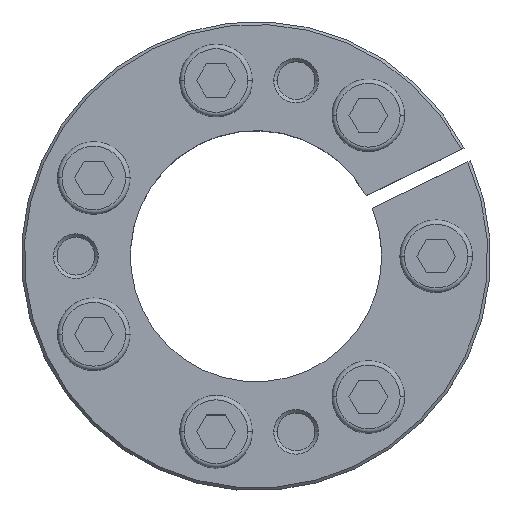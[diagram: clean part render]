
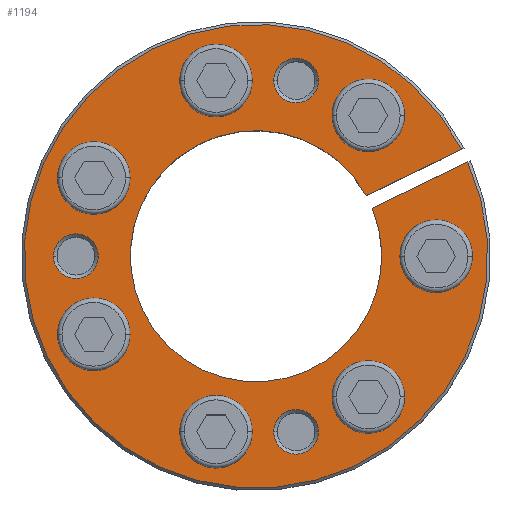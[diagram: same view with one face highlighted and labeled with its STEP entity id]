
A CAD part, top view. The second image highlights one B-rep face of the part: STEP entity #1194.
In plain terms, the highlighted planar face has unit normal (0, 0, 1).
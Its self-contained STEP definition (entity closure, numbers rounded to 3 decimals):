
#222=CARTESIAN_POINT('',(32.25,0.,8.));
#223=DIRECTION('',(0.,0.,1.));
#224=DIRECTION('',(1.,0.,0.));
#225=AXIS2_PLACEMENT_3D('',#222,#223,#224);
#230=CARTESIAN_POINT('',(32.25,0.,8.));
#231=DIRECTION('',(0.,0.,1.));
#232=DIRECTION('',(-1.,0.,0.));
#233=AXIS2_PLACEMENT_3D('',#230,#231,#232);
#238=CARTESIAN_POINT('',(20.108,25.214,8.));
#239=DIRECTION('',(0.,0.,1.));
#240=DIRECTION('',(1.,0.,0.));
#241=AXIS2_PLACEMENT_3D('',#238,#239,#240);
#246=CARTESIAN_POINT('',(20.108,25.214,8.));
#247=DIRECTION('',(0.,0.,1.));
#248=DIRECTION('',(-1.,0.,0.));
#249=AXIS2_PLACEMENT_3D('',#246,#247,#248);
#254=CARTESIAN_POINT('',(-7.176,31.441,8.));
#255=DIRECTION('',(0.,0.,1.));
#256=DIRECTION('',(1.,0.,0.));
#257=AXIS2_PLACEMENT_3D('',#254,#255,#256);
#262=CARTESIAN_POINT('',(-7.176,31.441,8.));
#263=DIRECTION('',(0.,0.,1.));
#264=DIRECTION('',(-1.,0.,0.));
#265=AXIS2_PLACEMENT_3D('',#262,#263,#264);
#270=CARTESIAN_POINT('',(-29.056,13.993,8.));
#271=DIRECTION('',(0.,0.,1.));
#272=DIRECTION('',(1.,0.,0.));
#273=AXIS2_PLACEMENT_3D('',#270,#271,#272);
#278=CARTESIAN_POINT('',(-29.056,13.993,8.));
#279=DIRECTION('',(0.,0.,1.));
#280=DIRECTION('',(-1.,0.,0.));
#281=AXIS2_PLACEMENT_3D('',#278,#279,#280);
#286=CARTESIAN_POINT('',(-29.056,-13.993,8.));
#287=DIRECTION('',(0.,0.,1.));
#288=DIRECTION('',(1.,0.,0.));
#289=AXIS2_PLACEMENT_3D('',#286,#287,#288);
#294=CARTESIAN_POINT('',(-29.056,-13.993,8.));
#295=DIRECTION('',(0.,0.,1.));
#296=DIRECTION('',(-1.,0.,0.));
#297=AXIS2_PLACEMENT_3D('',#294,#295,#296);
#302=CARTESIAN_POINT('',(-7.176,-31.441,8.));
#303=DIRECTION('',(0.,0.,1.));
#304=DIRECTION('',(1.,0.,0.));
#305=AXIS2_PLACEMENT_3D('',#302,#303,#304);
#310=CARTESIAN_POINT('',(-7.176,-31.441,8.));
#311=DIRECTION('',(0.,0.,1.));
#312=DIRECTION('',(-1.,0.,0.));
#313=AXIS2_PLACEMENT_3D('',#310,#311,#312);
#318=CARTESIAN_POINT('',(20.108,-25.214,8.));
#319=DIRECTION('',(0.,0.,1.));
#320=DIRECTION('',(1.,0.,0.));
#321=AXIS2_PLACEMENT_3D('',#318,#319,#320);
#326=CARTESIAN_POINT('',(20.108,-25.214,8.));
#327=DIRECTION('',(0.,0.,1.));
#328=DIRECTION('',(-1.,0.,0.));
#329=AXIS2_PLACEMENT_3D('',#326,#327,#328);
#334=CARTESIAN_POINT('',(7.176,31.441,8.));
#335=DIRECTION('',(0.,0.,-1.));
#336=DIRECTION('',(1.,0.,0.));
#337=AXIS2_PLACEMENT_3D('',#334,#335,#336);
#342=CARTESIAN_POINT('',(7.176,31.441,8.));
#343=DIRECTION('',(0.,0.,-1.));
#344=DIRECTION('',(-1.,0.,0.));
#345=AXIS2_PLACEMENT_3D('',#342,#343,#344);
#350=CARTESIAN_POINT('',(-32.25,0.,8.));
#351=DIRECTION('',(0.,0.,-1.));
#352=DIRECTION('',(1.,0.,0.));
#353=AXIS2_PLACEMENT_3D('',#350,#351,#352);
#358=CARTESIAN_POINT('',(-32.25,0.,8.));
#359=DIRECTION('',(0.,0.,-1.));
#360=DIRECTION('',(-1.,0.,0.));
#361=AXIS2_PLACEMENT_3D('',#358,#359,#360);
#366=CARTESIAN_POINT('',(7.176,-31.441,8.));
#367=DIRECTION('',(0.,0.,-1.));
#368=DIRECTION('',(1.,0.,0.));
#369=AXIS2_PLACEMENT_3D('',#366,#367,#368);
#374=CARTESIAN_POINT('',(7.176,-31.441,8.));
#375=DIRECTION('',(0.,0.,-1.));
#376=DIRECTION('',(-1.,0.,0.));
#377=AXIS2_PLACEMENT_3D('',#374,#375,#376);
#382=DIRECTION('',(0.901,0.434,0.));
#383=VECTOR('',#382,19.016);
#384=CARTESIAN_POINT('',(20.783,8.621,8.));
#385=LINE('',#384,#383);
#389=DIRECTION('',(-0.901,-0.434,0.));
#390=VECTOR('',#389,19.016);
#391=CARTESIAN_POINT('',(36.831,19.124,8.));
#392=LINE('',#391,#390);
#716=CARTESIAN_POINT('',(0.,0.,8.));
#717=DIRECTION('',(0.,0.,-1.));
#718=DIRECTION('',(0.924,0.383,0.));
#719=AXIS2_PLACEMENT_3D('',#716,#717,#718);
#764=CARTESIAN_POINT('',(0.,0.,8.));
#765=DIRECTION('',(0.,0.,1.));
#766=DIRECTION('',(0.887,0.461,0.));
#767=AXIS2_PLACEMENT_3D('',#764,#765,#766);
#868=CARTESIAN_POINT('',(36.5,0.,8.));
#869=CARTESIAN_POINT('',(28.,0.,8.));
#870=VERTEX_POINT('',#868);
#871=VERTEX_POINT('',#869);
#876=CARTESIAN_POINT('',(24.358,25.214,8.));
#877=CARTESIAN_POINT('',(15.858,25.214,8.));
#878=VERTEX_POINT('',#876);
#879=VERTEX_POINT('',#877);
#884=CARTESIAN_POINT('',(-2.926,31.441,8.));
#885=CARTESIAN_POINT('',(-11.426,31.441,8.));
#886=VERTEX_POINT('',#884);
#887=VERTEX_POINT('',#885);
#892=CARTESIAN_POINT('',(-24.806,13.993,8.));
#893=CARTESIAN_POINT('',(-33.306,13.993,8.));
#894=VERTEX_POINT('',#892);
#895=VERTEX_POINT('',#893);
#900=CARTESIAN_POINT('',(-24.806,-13.993,8.));
#901=CARTESIAN_POINT('',(-33.306,-13.993,8.));
#902=VERTEX_POINT('',#900);
#903=VERTEX_POINT('',#901);
#908=CARTESIAN_POINT('',(-2.926,-31.441,8.));
#909=CARTESIAN_POINT('',(-11.426,-31.441,8.));
#910=VERTEX_POINT('',#908);
#911=VERTEX_POINT('',#909);
#916=CARTESIAN_POINT('',(24.358,-25.214,8.));
#917=CARTESIAN_POINT('',(15.858,-25.214,8.));
#918=VERTEX_POINT('',#916);
#919=VERTEX_POINT('',#917);
#924=CARTESIAN_POINT('',(11.176,31.441,8.));
#925=CARTESIAN_POINT('',(3.176,31.441,8.));
#926=VERTEX_POINT('',#924);
#927=VERTEX_POINT('',#925);
#940=CARTESIAN_POINT('',(-28.25,0.,8.));
#941=CARTESIAN_POINT('',(-36.25,0.,8.));
#942=VERTEX_POINT('',#940);
#943=VERTEX_POINT('',#941);
#956=CARTESIAN_POINT('',(11.176,-31.441,8.));
#957=CARTESIAN_POINT('',(3.176,-31.441,8.));
#958=VERTEX_POINT('',#956);
#959=VERTEX_POINT('',#957);
#972=CARTESIAN_POINT('',(20.783,8.621,8.));
#973=CARTESIAN_POINT('',(37.916,16.872,8.));
#974=VERTEX_POINT('',#972);
#975=VERTEX_POINT('',#973);
#976=CARTESIAN_POINT('',(36.831,19.124,8.));
#977=CARTESIAN_POINT('',(19.698,10.874,8.));
#978=VERTEX_POINT('',#976);
#979=VERTEX_POINT('',#977);
#1120=CARTESIAN_POINT('',(0.,0.,8.));
#1121=DIRECTION('',(0.,0.,-1.));
#1122=DIRECTION('',(0.,-1.,0.));
#1123=AXIS2_PLACEMENT_3D('',#1120,#1121,#1122);
#1124=PLANE('',#1123);
#1126=ORIENTED_EDGE('',*,*,#1125,.T.);
#1128=ORIENTED_EDGE('',*,*,#1127,.F.);
#1130=ORIENTED_EDGE('',*,*,#1129,.T.);
#1132=ORIENTED_EDGE('',*,*,#1131,.F.);
#1133=EDGE_LOOP('',(#1126,#1128,#1130,#1132));
#1134=FACE_OUTER_BOUND('',#1133,.F.);
#1135=ORIENTED_EDGE('',*,*,#1110,.T.);
#1137=ORIENTED_EDGE('',*,*,#1136,.T.);
#1138=EDGE_LOOP('',(#1135,#1137));
#1139=FACE_BOUND('',#1138,.F.);
#1141=ORIENTED_EDGE('',*,*,#1140,.T.);
#1143=ORIENTED_EDGE('',*,*,#1142,.T.);
#1144=EDGE_LOOP('',(#1141,#1143));
#1145=FACE_BOUND('',#1144,.F.);
#1147=ORIENTED_EDGE('',*,*,#1146,.T.);
#1149=ORIENTED_EDGE('',*,*,#1148,.T.);
#1150=EDGE_LOOP('',(#1147,#1149));
#1151=FACE_BOUND('',#1150,.F.);
#1153=ORIENTED_EDGE('',*,*,#1152,.T.);
#1155=ORIENTED_EDGE('',*,*,#1154,.T.);
#1156=EDGE_LOOP('',(#1153,#1155));
#1157=FACE_BOUND('',#1156,.F.);
#1159=ORIENTED_EDGE('',*,*,#1158,.T.);
#1161=ORIENTED_EDGE('',*,*,#1160,.T.);
#1162=EDGE_LOOP('',(#1159,#1161));
#1163=FACE_BOUND('',#1162,.F.);
#1165=ORIENTED_EDGE('',*,*,#1164,.T.);
#1167=ORIENTED_EDGE('',*,*,#1166,.T.);
#1168=EDGE_LOOP('',(#1165,#1167));
#1169=FACE_BOUND('',#1168,.F.);
#1171=ORIENTED_EDGE('',*,*,#1170,.T.);
#1173=ORIENTED_EDGE('',*,*,#1172,.T.);
#1174=EDGE_LOOP('',(#1171,#1173));
#1175=FACE_BOUND('',#1174,.F.);
#1177=ORIENTED_EDGE('',*,*,#1176,.F.);
#1179=ORIENTED_EDGE('',*,*,#1178,.F.);
#1180=EDGE_LOOP('',(#1177,#1179));
#1181=FACE_BOUND('',#1180,.F.);
#1183=ORIENTED_EDGE('',*,*,#1182,.F.);
#1185=ORIENTED_EDGE('',*,*,#1184,.F.);
#1186=EDGE_LOOP('',(#1183,#1185));
#1187=FACE_BOUND('',#1186,.F.);
#1189=ORIENTED_EDGE('',*,*,#1188,.F.);
#1191=ORIENTED_EDGE('',*,*,#1190,.F.);
#1192=EDGE_LOOP('',(#1189,#1191));
#1193=FACE_BOUND('',#1192,.F.);
#1194=ADVANCED_FACE('',(#1134,#1139,#1145,#1151,#1157,#1163,#1169,#1175,#1181,
#1187,#1193),#1124,.F.);
#226=CIRCLE('',#225,4.25);
#234=CIRCLE('',#233,4.25);
#242=CIRCLE('',#241,4.25);
#250=CIRCLE('',#249,4.25);
#258=CIRCLE('',#257,4.25);
#266=CIRCLE('',#265,4.25);
#274=CIRCLE('',#273,4.25);
#282=CIRCLE('',#281,4.25);
#290=CIRCLE('',#289,4.25);
#298=CIRCLE('',#297,4.25);
#306=CIRCLE('',#305,4.25);
#314=CIRCLE('',#313,4.25);
#322=CIRCLE('',#321,4.25);
#330=CIRCLE('',#329,4.25);
#338=CIRCLE('',#337,4.);
#346=CIRCLE('',#345,4.);
#354=CIRCLE('',#353,4.);
#362=CIRCLE('',#361,4.);
#370=CIRCLE('',#369,4.);
#378=CIRCLE('',#377,4.);
#720=CIRCLE('',#719,22.5);
#768=CIRCLE('',#767,41.5);
#1110=EDGE_CURVE('',#870,#871,#226,.T.);
#1125=EDGE_CURVE('',#974,#975,#385,.T.);
#1127=EDGE_CURVE('',#978,#975,#768,.T.);
#1129=EDGE_CURVE('',#978,#979,#392,.T.);
#1131=EDGE_CURVE('',#974,#979,#720,.T.);
#1136=EDGE_CURVE('',#871,#870,#234,.T.);
#1140=EDGE_CURVE('',#878,#879,#242,.T.);
#1142=EDGE_CURVE('',#879,#878,#250,.T.);
#1146=EDGE_CURVE('',#886,#887,#258,.T.);
#1148=EDGE_CURVE('',#887,#886,#266,.T.);
#1152=EDGE_CURVE('',#894,#895,#274,.T.);
#1154=EDGE_CURVE('',#895,#894,#282,.T.);
#1158=EDGE_CURVE('',#902,#903,#290,.T.);
#1160=EDGE_CURVE('',#903,#902,#298,.T.);
#1164=EDGE_CURVE('',#910,#911,#306,.T.);
#1166=EDGE_CURVE('',#911,#910,#314,.T.);
#1170=EDGE_CURVE('',#918,#919,#322,.T.);
#1172=EDGE_CURVE('',#919,#918,#330,.T.);
#1176=EDGE_CURVE('',#926,#927,#338,.T.);
#1178=EDGE_CURVE('',#927,#926,#346,.T.);
#1182=EDGE_CURVE('',#942,#943,#354,.T.);
#1184=EDGE_CURVE('',#943,#942,#362,.T.);
#1188=EDGE_CURVE('',#958,#959,#370,.T.);
#1190=EDGE_CURVE('',#959,#958,#378,.T.);
